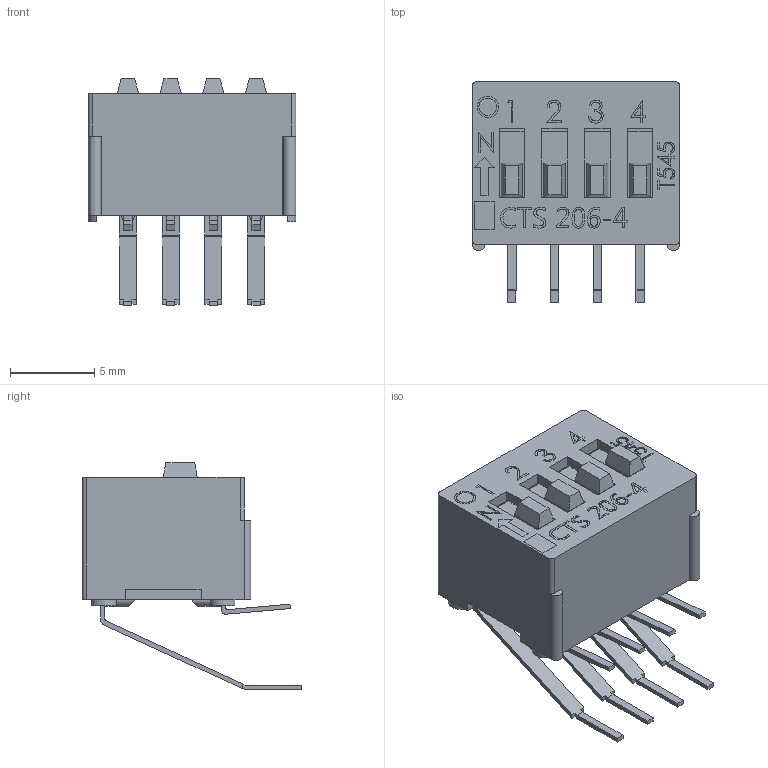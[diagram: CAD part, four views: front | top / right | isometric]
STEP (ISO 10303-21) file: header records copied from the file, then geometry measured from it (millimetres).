
FILE_DESCRIPTION (( 'STEP AP214' ), '1' );
FILE_NAME ('206-4RA.STEP', '2019-05-24T06:56:25', ( '' ), ( '' ), 'SwSTEP 2.0', 'SolidWorks 2019', '' );
FILE_SCHEMA (( 'AUTOMOTIVE_DESIGN' ));
Length unit declared in the file: millimetre
Products named in the file (4): 206-4RA; 206004RAS- Base assly; 206-56-014-35-01; 206-40-234-40-01(SPST-RA)
Assembly tree (6 placements, depth 2):
  206-4RA
    206-40-234-40-01(SPST-RA)
    206004RAS- Base assly
    206-56-014-35-01  x4
Bounding box: 12.34 x 13.08 x 13.5 mm (x, y, z)
Volume: 557 mm3; surface area: 1782.3 mm2
Topology: 6 solids, 6 shells, 575 faces, 1545 edges, 1020 vertices
Faces by surface type: plane 419, bspline 92, cylinder 64
Entity records: 20030 total; most frequent: CARTESIAN_POINT 8406, ORIENTED_EDGE 2484, DIRECTION 1896, EDGE_CURVE 1242, VECTOR 968, LINE 968, VERTEX_POINT 822, EDGE_LOOP 506
